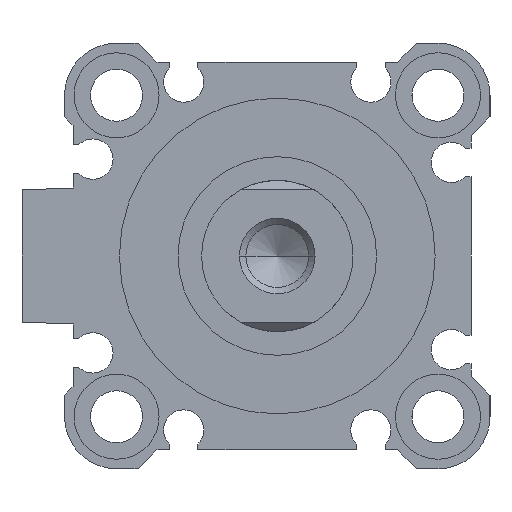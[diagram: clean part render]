
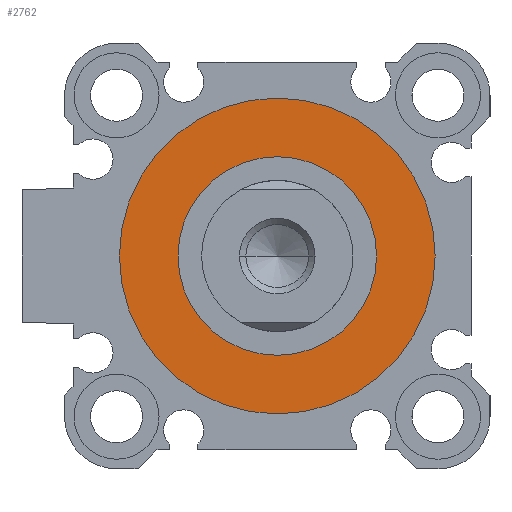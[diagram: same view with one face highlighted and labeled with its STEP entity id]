
A CAD part, left-side view. The second image highlights one B-rep face of the part: STEP entity #2762.
In plain terms, the highlighted planar face has unit normal (-1, 0, 0).
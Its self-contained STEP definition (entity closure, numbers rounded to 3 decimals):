
#238 = PLANE ( 'NONE',  #3365 ) ;
#245 = ORIENTED_EDGE ( 'NONE', *, *, #2751, .F. ) ;
#305 = DIRECTION ( 'NONE',  ( 1., 0., 0. ) ) ;
#357 = CARTESIAN_POINT ( 'NONE',  ( 2.1, 0., 0. ) ) ;
#493 = ORIENTED_EDGE ( 'NONE', *, *, #4142, .T. ) ;
#541 = AXIS2_PLACEMENT_3D ( 'NONE', #3382, #305, #619 ) ;
#619 = DIRECTION ( 'NONE',  ( 0., 0., -1. ) ) ;
#642 = CARTESIAN_POINT ( 'NONE',  ( 2.1, 0., 16.7 ) ) ;
#749 = DIRECTION ( 'NONE',  ( 1., 0., 0. ) ) ;
#820 = EDGE_LOOP ( 'NONE', ( #493, #1428 ) ) ;
#1022 = DIRECTION ( 'NONE',  ( 1., 0., 0. ) ) ;
#1428 = ORIENTED_EDGE ( 'NONE', *, *, #4118, .T. ) ;
#1430 = AXIS2_PLACEMENT_3D ( 'NONE', #3058, #749, #2384 ) ;
#1454 = CARTESIAN_POINT ( 'NONE',  ( 2.1, 0., 0. ) ) ;
#1479 = DIRECTION ( 'NONE',  ( 0., 1., 0. ) ) ;
#1490 = CARTESIAN_POINT ( 'NONE',  ( 2.1, 0., 10.5 ) ) ;
#1572 = DIRECTION ( 'NONE',  ( 0., 0., -1. ) ) ;
#1916 = ORIENTED_EDGE ( 'NONE', *, *, #3368, .F. ) ;
#2085 = EDGE_LOOP ( 'NONE', ( #1916, #245 ) ) ;
#2365 = VERTEX_POINT ( 'NONE', #3113 ) ;
#2384 = DIRECTION ( 'NONE',  ( 0., 0., -1. ) ) ;
#2737 = VERTEX_POINT ( 'NONE', #642 ) ;
#2751 = EDGE_CURVE ( 'NONE', #4686, #2737, #3139, .T. ) ;
#2761 = DIRECTION ( 'NONE',  ( 1., 0., 0. ) ) ;
#2762 = ADVANCED_FACE ( 'NONE', ( #4502, #4931 ), #238, .F. ) ;
#2805 = CIRCLE ( 'NONE', #1430, 10.5 ) ;
#3058 = CARTESIAN_POINT ( 'NONE',  ( 2.1, 0., 0. ) ) ;
#3105 = VERTEX_POINT ( 'NONE', #1490 ) ;
#3113 = CARTESIAN_POINT ( 'NONE',  ( 2.1, 0., -10.5 ) ) ;
#3133 = DIRECTION ( 'NONE',  ( 0., 0., -1. ) ) ;
#3139 = CIRCLE ( 'NONE', #541, 16.7 ) ;
#3161 = AXIS2_PLACEMENT_3D ( 'NONE', #357, #3841, #3133 ) ;
#3365 = AXIS2_PLACEMENT_3D ( 'NONE', #1454, #1022, #1479 ) ;
#3368 = EDGE_CURVE ( 'NONE', #2737, #4686, #4463, .T. ) ;
#3382 = CARTESIAN_POINT ( 'NONE',  ( 2.1, 0., 0. ) ) ;
#3445 = CIRCLE ( 'NONE', #3852, 10.5 ) ;
#3645 = CARTESIAN_POINT ( 'NONE',  ( 2.1, 0., -16.7 ) ) ;
#3841 = DIRECTION ( 'NONE',  ( 1., 0., 0. ) ) ;
#3852 = AXIS2_PLACEMENT_3D ( 'NONE', #4611, #2761, #1572 ) ;
#4118 = EDGE_CURVE ( 'NONE', #2365, #3105, #3445, .T. ) ;
#4142 = EDGE_CURVE ( 'NONE', #3105, #2365, #2805, .T. ) ;
#4463 = CIRCLE ( 'NONE', #3161, 16.7 ) ;
#4502 = FACE_OUTER_BOUND ( 'NONE', #2085, .T. ) ;
#4611 = CARTESIAN_POINT ( 'NONE',  ( 2.1, 0., 0. ) ) ;
#4686 = VERTEX_POINT ( 'NONE', #3645 ) ;
#4931 = FACE_BOUND ( 'NONE', #820, .T. ) ;
